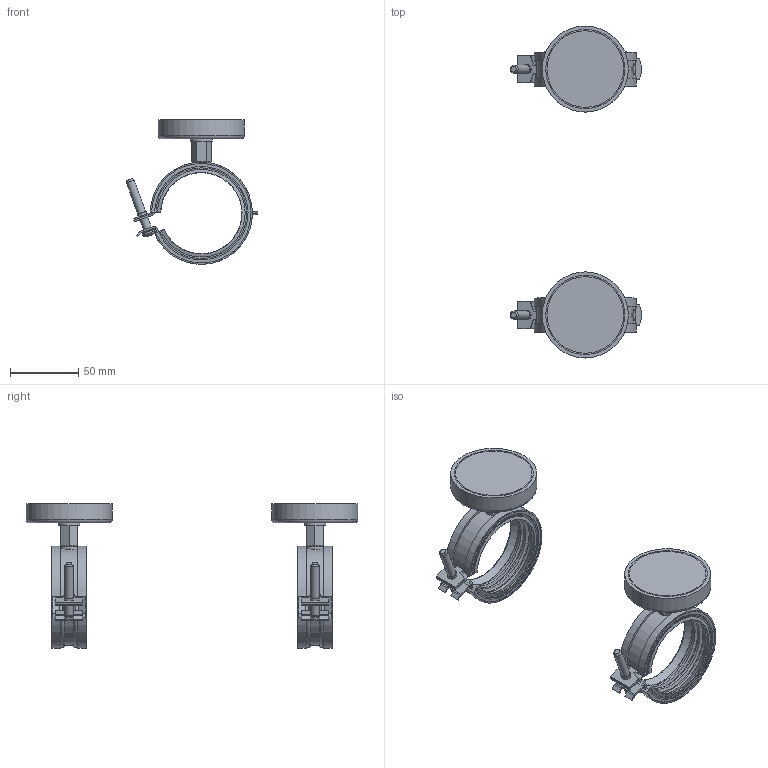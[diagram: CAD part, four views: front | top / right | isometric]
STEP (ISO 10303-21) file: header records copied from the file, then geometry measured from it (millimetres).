
FILE_DESCRIPTION(/* description */ ('Magnethalter Größe "5"'),/* implementation_level */ '2;1');
FILE_NAME(/* name */ '40-099-03-05.stp',/* time_stamp */ '2026-05-11T11:15:50+02:00',/* author */ ('Möller'),/* organization */ (''),/* preprocessor_version */ 'ST-DEVELOPER v20',/* originating_system */ 'Autodesk Inventor 2025',/* authorisation */ '');
FILE_SCHEMA (('AUTOMOTIVE_DESIGN { 1 0 10303 214 3 1 1 }'));
Length unit declared in the file: millimetre
Products named in the file (1): 40-099-03-05
Bounding box: 95.93 x 243 x 105.84 mm (x, y, z)
Volume: 145274.4 mm3; surface area: 66259.9 mm2
Topology: 6 solids, 6 shells, 586 faces, 1588 edges, 1008 vertices
Faces by surface type: plane 322, cylinder 144, cone 62, bspline 38, torus 14, sphere 6
Full cylindrical faces by diameter (mm): 2.5 x4, 6 x4, 6.8 x2, 7 x2, 8 x2, 8.4 x2, 8.5 x2, 10 x2, 10.5 x2, 16 x2, 63 x2
Entity records: 20412 total; most frequent: CARTESIAN_POINT 4869, ORIENTED_EDGE 3184, DIRECTION 3112, EDGE_CURVE 1592, AXIS2_PLACEMENT_3D 1115, VERTEX_POINT 1008, LINE 882, VECTOR 882
